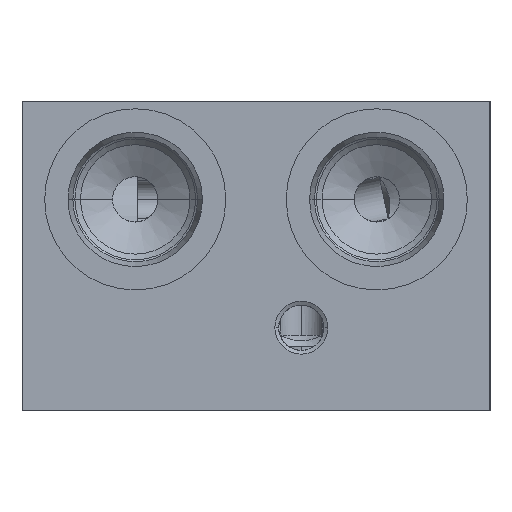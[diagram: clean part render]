
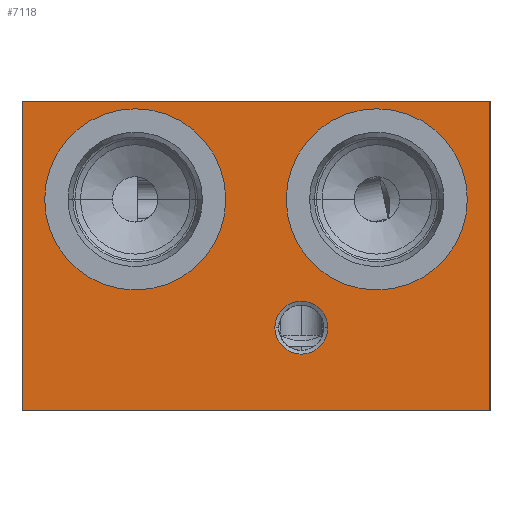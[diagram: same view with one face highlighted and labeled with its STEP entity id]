
A CAD part, left-side view. The second image highlights one B-rep face of the part: STEP entity #7118.
In plain terms, the highlighted planar face has unit normal (-1, 0, 0).
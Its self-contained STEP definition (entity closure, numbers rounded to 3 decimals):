
#36=DIRECTION('',(0.,-1.,0.));
#37=VECTOR('',#36,62.);
#38=CARTESIAN_POINT('',(0.,62.,0.));
#39=LINE('',#38,#37);
#121=DIRECTION('',(0.,0.,-1.));
#122=VECTOR('',#121,41.);
#123=CARTESIAN_POINT('',(0.,0.,0.));
#124=LINE('',#123,#122);
#254=DIRECTION('',(0.,0.,-1.));
#255=VECTOR('',#254,41.);
#256=CARTESIAN_POINT('',(0.,62.,0.));
#257=LINE('',#256,#255);
#261=CARTESIAN_POINT('',(0.,47.,-13.));
#262=DIRECTION('',(1.,0.,0.));
#263=DIRECTION('',(0.,1.,0.));
#264=AXIS2_PLACEMENT_3D('',#261,#262,#263);
#269=CARTESIAN_POINT('',(0.,47.,-13.));
#270=DIRECTION('',(1.,0.,0.));
#271=DIRECTION('',(0.,-1.,0.));
#272=AXIS2_PLACEMENT_3D('',#269,#270,#271);
#277=CARTESIAN_POINT('',(0.,15.,-13.));
#278=DIRECTION('',(1.,0.,0.));
#279=DIRECTION('',(0.,1.,0.));
#280=AXIS2_PLACEMENT_3D('',#277,#278,#279);
#285=CARTESIAN_POINT('',(0.,15.,-13.));
#286=DIRECTION('',(1.,0.,0.));
#287=DIRECTION('',(0.,-1.,0.));
#288=AXIS2_PLACEMENT_3D('',#285,#286,#287);
#293=CARTESIAN_POINT('',(0.,25.,-30.));
#294=DIRECTION('',(-1.,0.,0.));
#295=DIRECTION('',(0.,1.,0.));
#296=AXIS2_PLACEMENT_3D('',#293,#294,#295);
#301=CARTESIAN_POINT('',(0.,25.,-30.));
#302=DIRECTION('',(-1.,0.,0.));
#303=DIRECTION('',(0.,-1.,0.));
#304=AXIS2_PLACEMENT_3D('',#301,#302,#303);
#330=DIRECTION('',(0.,-1.,0.));
#331=VECTOR('',#330,62.);
#332=CARTESIAN_POINT('',(0.,62.,-41.));
#333=LINE('',#332,#331);
#6402=CARTESIAN_POINT('',(0.,0.,0.));
#6404=VERTEX_POINT('',#6402);
#6408=CARTESIAN_POINT('',(0.,62.,0.));
#6409=VERTEX_POINT('',#6408);
#6410=CARTESIAN_POINT('',(0.,0.,-41.));
#6412=VERTEX_POINT('',#6410);
#6416=CARTESIAN_POINT('',(0.,62.,-41.));
#6417=VERTEX_POINT('',#6416);
#6422=CARTESIAN_POINT('',(0.,59.,-13.));
#6423=VERTEX_POINT('',#6422);
#6424=CARTESIAN_POINT('',(0.,35.,-13.));
#6425=VERTEX_POINT('',#6424);
#6446=CARTESIAN_POINT('',(0.,27.,-13.));
#6447=VERTEX_POINT('',#6446);
#6448=CARTESIAN_POINT('',(0.,3.,-13.));
#6449=VERTEX_POINT('',#6448);
#6742=CARTESIAN_POINT('',(0.,28.5,-30.));
#6743=VERTEX_POINT('',#6742);
#6744=CARTESIAN_POINT('',(0.,21.5,-30.));
#6745=VERTEX_POINT('',#6744);
#7088=CARTESIAN_POINT('',(0.,62.,0.));
#7089=DIRECTION('',(-1.,0.,0.));
#7090=DIRECTION('',(0.,-1.,0.));
#7091=AXIS2_PLACEMENT_3D('',#7088,#7089,#7090);
#7092=PLANE('',#7091);
#7093=ORIENTED_EDGE('',*,*,#6922,.T.);
#7094=ORIENTED_EDGE('',*,*,#6977,.T.);
#7096=ORIENTED_EDGE('',*,*,#7095,.F.);
#7097=ORIENTED_EDGE('',*,*,#7044,.F.);
#7098=EDGE_LOOP('',(#7093,#7094,#7096,#7097));
#7099=FACE_OUTER_BOUND('',#7098,.F.);
#7101=ORIENTED_EDGE('',*,*,#7100,.F.);
#7103=ORIENTED_EDGE('',*,*,#7102,.F.);
#7104=EDGE_LOOP('',(#7101,#7103));
#7105=FACE_BOUND('',#7104,.F.);
#7107=ORIENTED_EDGE('',*,*,#7106,.F.);
#7109=ORIENTED_EDGE('',*,*,#7108,.F.);
#7110=EDGE_LOOP('',(#7107,#7109));
#7111=FACE_BOUND('',#7110,.F.);
#7113=ORIENTED_EDGE('',*,*,#7112,.T.);
#7115=ORIENTED_EDGE('',*,*,#7114,.T.);
#7116=EDGE_LOOP('',(#7113,#7115));
#7117=FACE_BOUND('',#7116,.F.);
#265=CIRCLE('',#264,12.);
#273=CIRCLE('',#272,12.);
#281=CIRCLE('',#280,12.);
#289=CIRCLE('',#288,12.);
#297=CIRCLE('',#296,3.5);
#305=CIRCLE('',#304,3.5);
#6922=EDGE_CURVE('',#6409,#6404,#39,.T.);
#6977=EDGE_CURVE('',#6404,#6412,#124,.T.);
#7044=EDGE_CURVE('',#6409,#6417,#257,.T.);
#7095=EDGE_CURVE('',#6417,#6412,#333,.T.);
#7100=EDGE_CURVE('',#6423,#6425,#265,.T.);
#7102=EDGE_CURVE('',#6425,#6423,#273,.T.);
#7106=EDGE_CURVE('',#6447,#6449,#281,.T.);
#7108=EDGE_CURVE('',#6449,#6447,#289,.T.);
#7112=EDGE_CURVE('',#6743,#6745,#297,.T.);
#7114=EDGE_CURVE('',#6745,#6743,#305,.T.);
#7118=ADVANCED_FACE('',(#7099,#7105,#7111,#7117),#7092,.T.);
